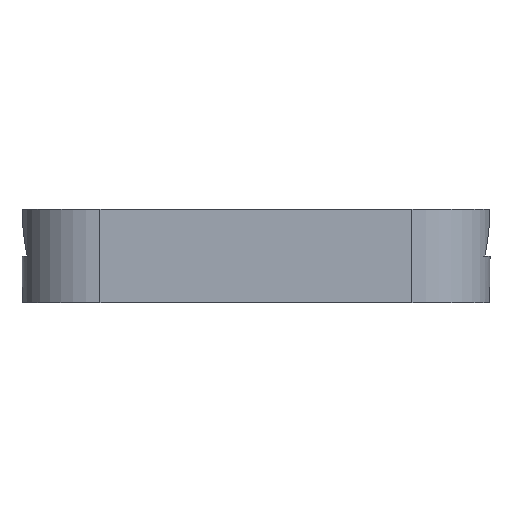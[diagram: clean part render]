
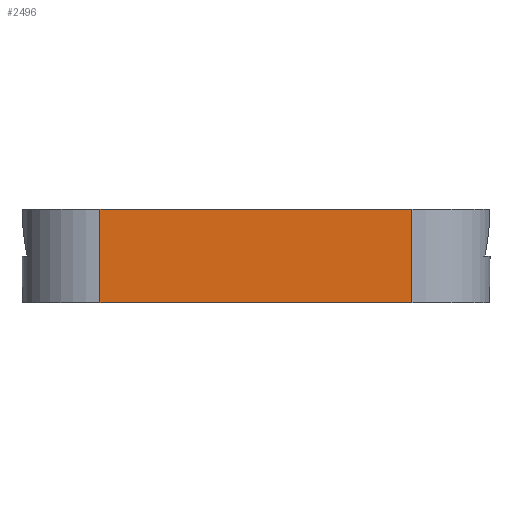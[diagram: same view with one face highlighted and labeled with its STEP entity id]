
A CAD part, front view. The second image highlights one B-rep face of the part: STEP entity #2496.
In plain terms, the highlighted planar face has unit normal (0, -1, 0).
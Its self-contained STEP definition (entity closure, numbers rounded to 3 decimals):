
#163 = DIRECTION ( 'NONE',  ( 1., 0., 0. ) ) ;
#187 = ORIENTED_EDGE ( 'NONE', *, *, #4795, .T. ) ;
#340 = VECTOR ( 'NONE', #1424, 1000. ) ;
#364 = ORIENTED_EDGE ( 'NONE', *, *, #3279, .T. ) ;
#716 = CARTESIAN_POINT ( 'NONE',  ( 20., -100., 0. ) ) ;
#777 = DIRECTION ( 'NONE',  ( 0., 0., -1. ) ) ;
#852 = VECTOR ( 'NONE', #777, 1000. ) ;
#1044 = EDGE_CURVE ( 'NONE', #4911, #4483, #3008, .T. ) ;
#1213 = ORIENTED_EDGE ( 'NONE', *, *, #5371, .T. ) ;
#1417 = DIRECTION ( 'NONE',  ( 0., 0., -1. ) ) ;
#1424 = DIRECTION ( 'NONE',  ( -1., 0., 0. ) ) ;
#1503 = LINE ( 'NONE', #4105, #852 ) ;
#1512 = DIRECTION ( 'NONE',  ( 0., 0., 1. ) ) ;
#1670 = CARTESIAN_POINT ( 'NONE',  ( 20., -100., 0. ) ) ;
#1787 = DIRECTION ( 'NONE',  ( 0., -1., 0. ) ) ;
#2146 = ORIENTED_EDGE ( 'NONE', *, *, #1044, .T. ) ;
#2496 = ADVANCED_FACE ( 'NONE', ( #3482 ), #3535, .T. ) ;
#3008 = LINE ( 'NONE', #3922, #340 ) ;
#3072 = LINE ( 'NONE', #3874, #3452 ) ;
#3279 = EDGE_CURVE ( 'NONE', #3642, #4911, #4843, .T. ) ;
#3452 = VECTOR ( 'NONE', #163, 1000. ) ;
#3482 = FACE_OUTER_BOUND ( 'NONE', #4256, .T. ) ;
#3535 = PLANE ( 'NONE',  #3655 ) ;
#3589 = VERTEX_POINT ( 'NONE', #4622 ) ;
#3642 = VERTEX_POINT ( 'NONE', #1670 ) ;
#3655 = AXIS2_PLACEMENT_3D ( 'NONE', #4760, #1787, #1417 ) ;
#3739 = CARTESIAN_POINT ( 'NONE',  ( 20., -100., 12. ) ) ;
#3874 = CARTESIAN_POINT ( 'NONE',  ( -30., -100., 0. ) ) ;
#3909 = CARTESIAN_POINT ( 'NONE',  ( -20., -100., 12. ) ) ;
#3922 = CARTESIAN_POINT ( 'NONE',  ( -30., -100., 12. ) ) ;
#4105 = CARTESIAN_POINT ( 'NONE',  ( -20., -100., 0. ) ) ;
#4256 = EDGE_LOOP ( 'NONE', ( #2146, #187, #1213, #364 ) ) ;
#4483 = VERTEX_POINT ( 'NONE', #3909 ) ;
#4622 = CARTESIAN_POINT ( 'NONE',  ( -20., -100., 0. ) ) ;
#4760 = CARTESIAN_POINT ( 'NONE',  ( 0., -100., 0. ) ) ;
#4795 = EDGE_CURVE ( 'NONE', #4483, #3589, #1503, .T. ) ;
#4843 = LINE ( 'NONE', #716, #5090 ) ;
#4911 = VERTEX_POINT ( 'NONE', #3739 ) ;
#5090 = VECTOR ( 'NONE', #1512, 1000. ) ;
#5371 = EDGE_CURVE ( 'NONE', #3589, #3642, #3072, .T. ) ;
